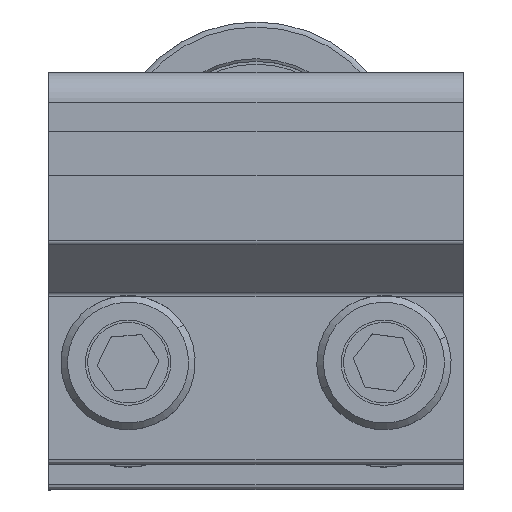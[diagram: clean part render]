
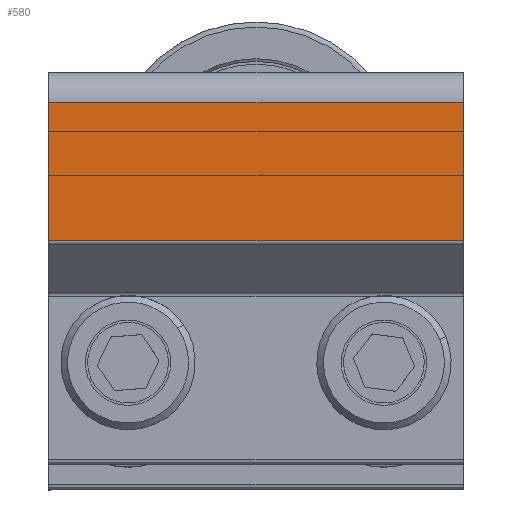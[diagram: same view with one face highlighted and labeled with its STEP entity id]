
A CAD part, top view. The second image highlights one B-rep face of the part: STEP entity #580.
In plain terms, the highlighted planar face has unit normal (0, 0, 1) as drawn and (1, 0, 0) by its records, which use the part's own axes.
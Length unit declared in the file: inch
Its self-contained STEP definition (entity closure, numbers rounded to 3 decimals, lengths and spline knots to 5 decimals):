
#74=DIRECTION('',(0.,0.,1.));
#75=VECTOR('',#74,1.216);
#76=CARTESIAN_POINT('',(0.375,0.35921,-0.608));
#77=LINE('',#76,#75);
#78=DIRECTION('',(0.,-1.,0.));
#79=VECTOR('',#78,0.40379);
#80=CARTESIAN_POINT('',(0.375,0.763,-0.608));
#81=LINE('',#80,#79);
#159=DIRECTION('',(0.,-1.,0.));
#160=VECTOR('',#159,0.40379);
#161=CARTESIAN_POINT('',(0.375,0.763,0.608));
#162=LINE('',#161,#160);
#163=DIRECTION('',(0.,0.,-1.));
#164=VECTOR('',#163,1.216);
#165=CARTESIAN_POINT('',(0.375,0.763,0.608));
#166=LINE('',#165,#164);
#327=CARTESIAN_POINT('',(0.375,0.763,0.608));
#328=CARTESIAN_POINT('',(0.375,0.763,-0.608));
#329=VERTEX_POINT('',#327);
#330=VERTEX_POINT('',#328);
#369=CARTESIAN_POINT('',(0.375,0.35921,-0.608));
#370=CARTESIAN_POINT('',(0.375,0.35921,0.608));
#371=VERTEX_POINT('',#369);
#372=VERTEX_POINT('',#370);
#568=CARTESIAN_POINT('',(0.375,0.763,0.608));
#569=DIRECTION('',(-1.,0.,0.));
#570=DIRECTION('',(0.,-1.,0.));
#571=AXIS2_PLACEMENT_3D('',#568,#569,#570);
#572=PLANE('',#571);
#573=ORIENTED_EDGE('',*,*,#485,.F.);
#575=ORIENTED_EDGE('',*,*,#574,.T.);
#576=ORIENTED_EDGE('',*,*,#526,.T.);
#577=ORIENTED_EDGE('',*,*,#516,.T.);
#578=EDGE_LOOP('',(#573,#575,#576,#577));
#579=FACE_OUTER_BOUND('',#578,.F.);
#485=EDGE_CURVE('',#329,#372,#162,.T.);
#516=EDGE_CURVE('',#371,#372,#77,.T.);
#526=EDGE_CURVE('',#330,#371,#81,.T.);
#574=EDGE_CURVE('',#329,#330,#166,.T.);
#580=ADVANCED_FACE('',(#579),#572,.F.);
